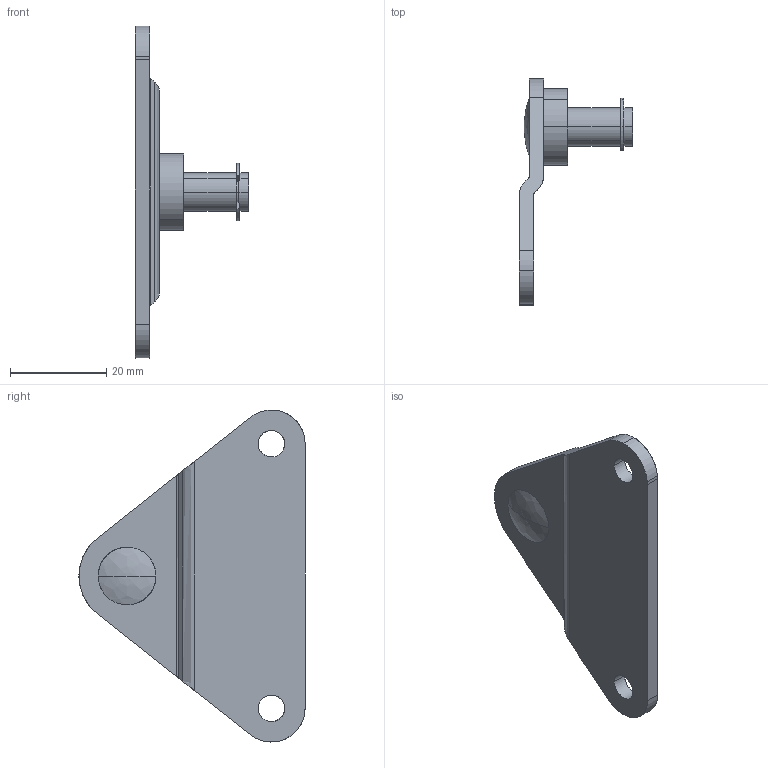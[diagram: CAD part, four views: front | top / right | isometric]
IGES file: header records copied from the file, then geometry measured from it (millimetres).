
Start section: SolidWorks IGES file using analytic representation for surfaces
Global section: file name: C:\3D-DATA\型式\ガススプリング\取付金具\ACEデータ\OA8.IGS; native system: SolidWorks 2007; preprocessor: SolidWorks 2007; author: SW; date: 120619.102356; units: millimetre
Bounding box: 23.5 x 47 x 69 mm (x, y, z)
Surface area: 5584.3 mm2 (no closed solid volume)
Topology: 0 solids, 0 shells, 64 faces, 960 edges, 958 vertices
Faces by surface type: revolution 45, bspline 19
